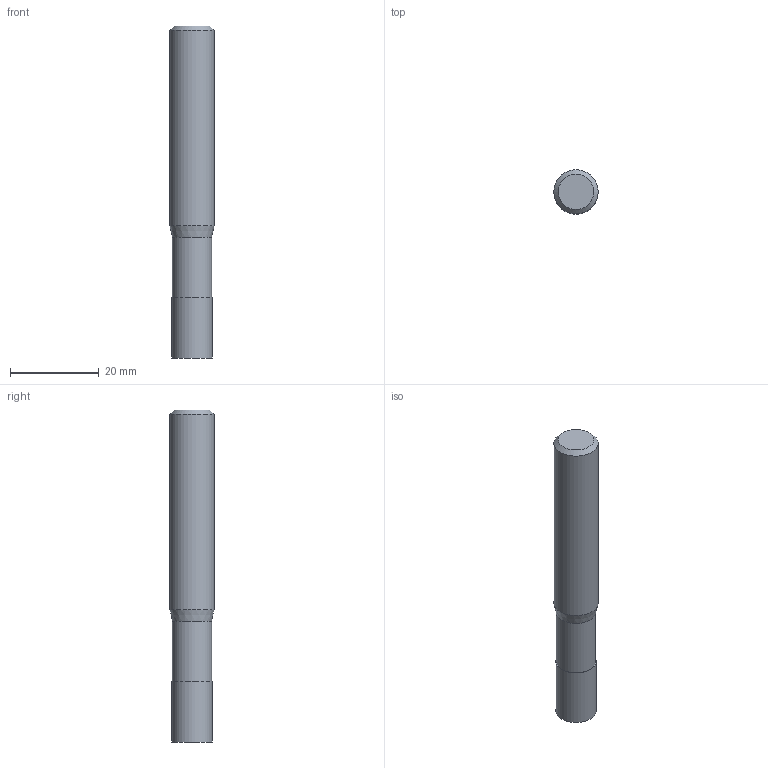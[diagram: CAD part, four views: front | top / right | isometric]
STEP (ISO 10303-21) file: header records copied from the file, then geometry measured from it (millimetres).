
FILE_DESCRIPTION((''),'2;1');
FILE_NAME('C:\Users\nsx150\AppData\Local\Temp\Mastercam 2021\EUJSUNXURU\TEMP.step','2021-04-22T10:29:41',(''),(''),'STEP Write','Mastercam 2021 ... CNC Software, Inc.','');
FILE_SCHEMA(('AUTOMOTIVE_DESIGN'));
Length unit declared in the file: millimetre
Products named in the file (1): None
Bounding box: 10 x 10 x 75 mm (x, y, z)
Volume: 5447.3 mm3; surface area: 2518.8 mm2
Topology: 2 solids, 2 shells, 9 faces, 12 edges, 7 vertices
Faces by surface type: plane 4, cylinder 3, cone 2
Full cylindrical faces by diameter (mm): 8.9 x1, 9.1 x1, 10 x1
Entity records: 211 total; most frequent: DIRECTION 36, CARTESIAN_POINT 25, AXIS2_PLACEMENT_3D 18, ORIENTED_EDGE 14, EDGE_LOOP 14, STYLED_ITEM 12, ADVANCED_FACE 9, FACE_BOUND 8
